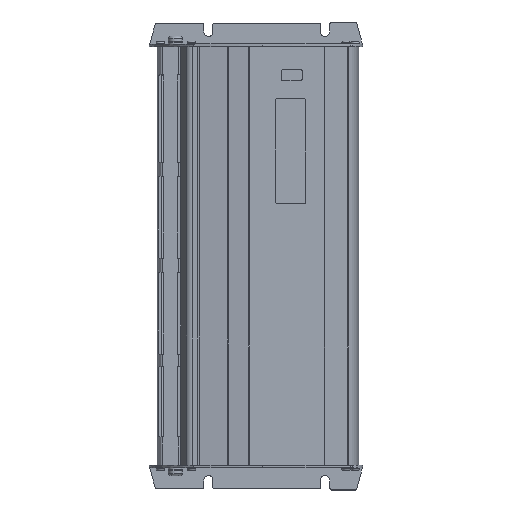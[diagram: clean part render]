
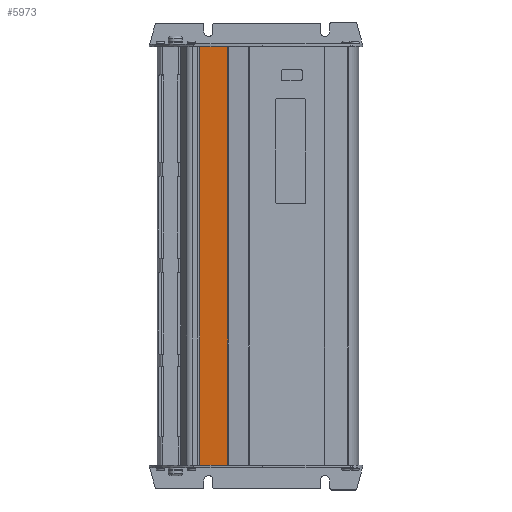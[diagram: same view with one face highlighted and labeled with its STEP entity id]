
A CAD part, top view. The second image highlights one B-rep face of the part: STEP entity #5973.
In plain terms, the highlighted planar face has unit normal (-0.124, 0, 0.992).
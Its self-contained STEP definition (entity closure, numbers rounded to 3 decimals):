
#1717 = PLANE('',#1718);
#1718 = AXIS2_PLACEMENT_3D('',#1719,#1720,#1721);
#1719 = CARTESIAN_POINT('',(-68.517,-0.8,-32.48));
#1720 = DIRECTION('',(0.,-1.,0.));
#1721 = DIRECTION('',(0.,0.,-1.));
#3056 = VERTEX_POINT('',#3057);
#3057 = CARTESIAN_POINT('',(-18.139,-0.8,20.859));
#3070 = PLANE('',#3071);
#3071 = AXIS2_PLACEMENT_3D('',#3072,#3073,#3074);
#3072 = CARTESIAN_POINT('',(-17.939,0.,20.818));
#3073 = DIRECTION('',(-0.199,0.,
    -0.98));
#3074 = DIRECTION('',(-0.98,0.,0.199
    ));
#3081 = EDGE_CURVE('',#3082,#3056,#3084,.T.);
#3082 = VERTEX_POINT('',#3083);
#3083 = CARTESIAN_POINT('',(-36.299,-0.8,18.585));
#3084 = SURFACE_CURVE('',#3085,(#3089,#3095),.PCURVE_S1.);
#3085 = LINE('',#3086,#3087);
#3086 = CARTESIAN_POINT('',(-55.307,-0.8,16.206));
#3087 = VECTOR('',#3088,1.);
#3088 = DIRECTION('',(0.992,0.,0.124)
  );
#3089 = PCURVE('',#1717,#3090);
#3090 = DEFINITIONAL_REPRESENTATION('',(#3091),#3094);
#3091 = B_SPLINE_CURVE_WITH_KNOTS('',1,(#3092,#3093),.UNSPECIFIED.,.F.,
  .F.,(2,2),(17.326,39.287),.PIECEWISE_BEZIER_KNOTS.);
#3092 = CARTESIAN_POINT('',(-50.838,30.403));
#3093 = CARTESIAN_POINT('',(-53.566,52.194));
#3094 = ( GEOMETRIC_REPRESENTATION_CONTEXT(2) 
PARAMETRIC_REPRESENTATION_CONTEXT() REPRESENTATION_CONTEXT('2D SPACE',''
  ) );
#3095 = PCURVE('',#3096,#3101);
#3096 = PLANE('',#3097);
#3097 = AXIS2_PLACEMENT_3D('',#3098,#3099,#3100);
#3098 = CARTESIAN_POINT('',(-36.299,0.,18.585));
#3099 = DIRECTION('',(-0.124,0.,0.992
    ));
#3100 = DIRECTION('',(0.992,0.,0.124)
  );
#3101 = DEFINITIONAL_REPRESENTATION('',(#3102),#3105);
#3102 = B_SPLINE_CURVE_WITH_KNOTS('',1,(#3103,#3104),.UNSPECIFIED.,.F.,
  .F.,(2,2),(17.326,39.287),.PIECEWISE_BEZIER_KNOTS.);
#3103 = CARTESIAN_POINT('',(-1.83,-0.8));
#3104 = CARTESIAN_POINT('',(20.131,-0.8));
#3105 = ( GEOMETRIC_REPRESENTATION_CONTEXT(2) 
PARAMETRIC_REPRESENTATION_CONTEXT() REPRESENTATION_CONTEXT('2D SPACE',''
  ) );
#3122 = PLANE('',#3123);
#3123 = AXIS2_PLACEMENT_3D('',#3124,#3125,#3126);
#3124 = CARTESIAN_POINT('',(-36.559,0.,18.499));
#3125 = DIRECTION('',(-0.316,0.,0.949
    ));
#3126 = DIRECTION('',(0.949,0.,0.316)
  );
#3924 = PLANE('',#3925);
#3925 = AXIS2_PLACEMENT_3D('',#3926,#3927,#3928);
#3926 = CARTESIAN_POINT('',(-68.517,-269.2,-32.48));
#3927 = DIRECTION('',(0.,1.,0.));
#3928 = DIRECTION('',(0.,0.,1.));
#5933 = VERTEX_POINT('',#5934);
#5934 = CARTESIAN_POINT('',(-36.299,-269.2,18.585));
#5953 = EDGE_CURVE('',#3082,#5933,#5954,.T.);
#5954 = SURFACE_CURVE('',#5955,(#5959,#5966),.PCURVE_S1.);
#5955 = LINE('',#5956,#5957);
#5956 = CARTESIAN_POINT('',(-36.299,0.,18.585));
#5957 = VECTOR('',#5958,1.);
#5958 = DIRECTION('',(0.,-1.,0.));
#5959 = PCURVE('',#3122,#5960);
#5960 = DEFINITIONAL_REPRESENTATION('',(#5961),#5965);
#5961 = LINE('',#5962,#5963);
#5962 = CARTESIAN_POINT('',(0.274,0.));
#5963 = VECTOR('',#5964,1.);
#5964 = DIRECTION('',(0.,-1.));
#5965 = ( GEOMETRIC_REPRESENTATION_CONTEXT(2) 
PARAMETRIC_REPRESENTATION_CONTEXT() REPRESENTATION_CONTEXT('2D SPACE',''
  ) );
#5966 = PCURVE('',#3096,#5967);
#5967 = DEFINITIONAL_REPRESENTATION('',(#5968),#5972);
#5968 = LINE('',#5969,#5970);
#5969 = CARTESIAN_POINT('',(0.,0.));
#5970 = VECTOR('',#5971,1.);
#5971 = DIRECTION('',(0.,-1.));
#5972 = ( GEOMETRIC_REPRESENTATION_CONTEXT(2) 
PARAMETRIC_REPRESENTATION_CONTEXT() REPRESENTATION_CONTEXT('2D SPACE',''
  ) );
#5973 = ADVANCED_FACE('',(#5974),#3096,.T.);
#5974 = FACE_BOUND('',#5975,.T.);
#5975 = EDGE_LOOP('',(#5976,#5977,#5978,#5999));
#5976 = ORIENTED_EDGE('',*,*,#3081,.F.);
#5977 = ORIENTED_EDGE('',*,*,#5953,.T.);
#5978 = ORIENTED_EDGE('',*,*,#5979,.T.);
#5979 = EDGE_CURVE('',#5933,#5980,#5982,.T.);
#5980 = VERTEX_POINT('',#5981);
#5981 = CARTESIAN_POINT('',(-18.139,-269.2,20.859));
#5982 = SURFACE_CURVE('',#5983,(#5987,#5993),.PCURVE_S1.);
#5983 = LINE('',#5984,#5985);
#5984 = CARTESIAN_POINT('',(-55.307,-269.2,16.206));
#5985 = VECTOR('',#5986,1.);
#5986 = DIRECTION('',(0.992,0.,0.124
    ));
#5987 = PCURVE('',#3096,#5988);
#5988 = DEFINITIONAL_REPRESENTATION('',(#5989),#5992);
#5989 = B_SPLINE_CURVE_WITH_KNOTS('',1,(#5990,#5991),.UNSPECIFIED.,.F.,
  .F.,(2,2),(17.326,39.287),.PIECEWISE_BEZIER_KNOTS.);
#5990 = CARTESIAN_POINT('',(-1.83,-269.2));
#5991 = CARTESIAN_POINT('',(20.131,-269.2));
#5992 = ( GEOMETRIC_REPRESENTATION_CONTEXT(2) 
PARAMETRIC_REPRESENTATION_CONTEXT() REPRESENTATION_CONTEXT('2D SPACE',''
  ) );
#5993 = PCURVE('',#3924,#5994);
#5994 = DEFINITIONAL_REPRESENTATION('',(#5995),#5998);
#5995 = B_SPLINE_CURVE_WITH_KNOTS('',1,(#5996,#5997),.UNSPECIFIED.,.F.,
  .F.,(2,2),(17.326,39.287),.PIECEWISE_BEZIER_KNOTS.);
#5996 = CARTESIAN_POINT('',(50.838,30.403));
#5997 = CARTESIAN_POINT('',(53.566,52.194));
#5998 = ( GEOMETRIC_REPRESENTATION_CONTEXT(2) 
PARAMETRIC_REPRESENTATION_CONTEXT() REPRESENTATION_CONTEXT('2D SPACE',''
  ) );
#5999 = ORIENTED_EDGE('',*,*,#6000,.F.);
#6000 = EDGE_CURVE('',#3056,#5980,#6001,.T.);
#6001 = SURFACE_CURVE('',#6002,(#6006,#6013),.PCURVE_S1.);
#6002 = LINE('',#6003,#6004);
#6003 = CARTESIAN_POINT('',(-18.139,0.,20.859));
#6004 = VECTOR('',#6005,1.);
#6005 = DIRECTION('',(0.,-1.,0.));
#6006 = PCURVE('',#3096,#6007);
#6007 = DEFINITIONAL_REPRESENTATION('',(#6008),#6012);
#6008 = LINE('',#6009,#6010);
#6009 = CARTESIAN_POINT('',(18.301,0.));
#6010 = VECTOR('',#6011,1.);
#6011 = DIRECTION('',(0.,-1.));
#6012 = ( GEOMETRIC_REPRESENTATION_CONTEXT(2) 
PARAMETRIC_REPRESENTATION_CONTEXT() REPRESENTATION_CONTEXT('2D SPACE',''
  ) );
#6013 = PCURVE('',#3070,#6014);
#6014 = DEFINITIONAL_REPRESENTATION('',(#6015),#6019);
#6015 = LINE('',#6016,#6017);
#6016 = CARTESIAN_POINT('',(0.205,0.));
#6017 = VECTOR('',#6018,1.);
#6018 = DIRECTION('',(0.,-1.));
#6019 = ( GEOMETRIC_REPRESENTATION_CONTEXT(2) 
PARAMETRIC_REPRESENTATION_CONTEXT() REPRESENTATION_CONTEXT('2D SPACE',''
  ) );
